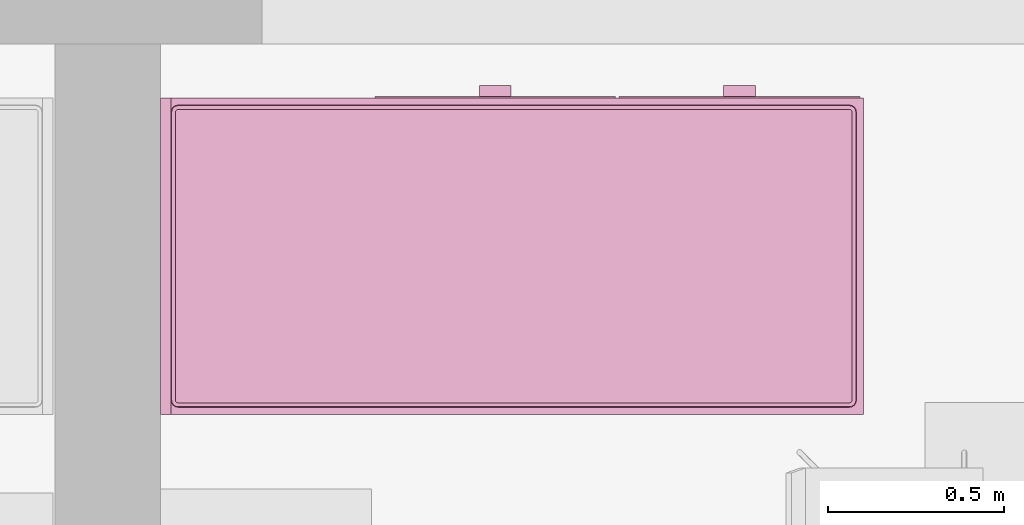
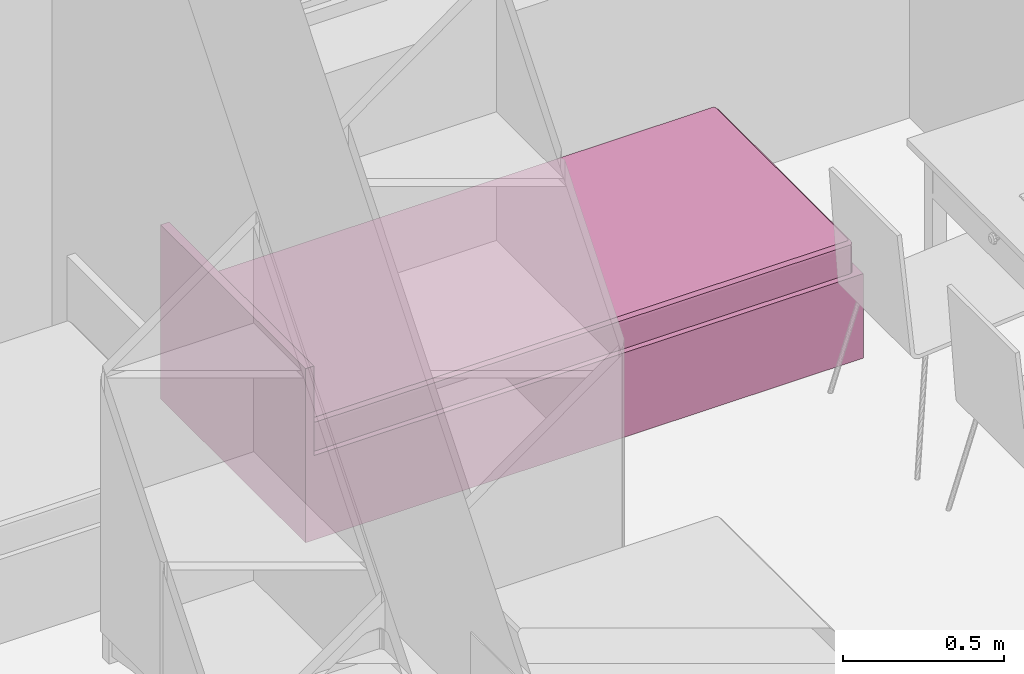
# One storey, part 112 of 172: 1 furnishing.
"""IFC2X3 building model written with IfcOpenShell, lengths in millimetres."""

import ifcopenshell
import ifcopenshell.guid

model = None  # the IFC model being written
_history = None  # IfcOwnerHistory: only IFC2X3 demands one
_inside = {}  # id of a spatial element -> (the spatial element, [elements in it])
_under = {}  # id of a project, library or spatial element -> (it, [spatial elements below it])
_declared = {}  # id of a project -> (the project, [libraries it declares])
_typed = {}  # id of a type object -> (the type object, [elements of that type])
_made_of = {}  # id of a material, layer set ... -> (it, [elements and type objects made of it])


def new_model(schema):
    """Start an empty IFC model of exactly this schema.

    Asked for "IFC4X3", IfcOpenShell would pick the latest addendum, in which some entities
    have other attributes; the version numbers below select the first issue.
    IFC2X3 requires an IfcOwnerHistory on every rooted entity: one is made here for all.
    """
    global model, _history
    if schema == "IFC4X3":
        model = ifcopenshell.file(schema_version=(4, 3, 0, 0))
    else:
        model = ifcopenshell.file(schema=schema)
    _inside.clear()
    _under.clear()
    _declared.clear()
    _typed.clear()
    _made_of.clear()
    _history = None
    if model.schema == "IFC2X3":
        org = make("IfcOrganization", Name="unknown")
        user = make(
            "IfcPersonAndOrganization",
            ThePerson=make("IfcPerson", FamilyName="unknown"),
            TheOrganization=org,
        )
        app = make(
            "IfcApplication",
            ApplicationDeveloper=org,
            Version="unknown",
            ApplicationFullName="unknown",
            ApplicationIdentifier="unknown",
        )
        _history = make(
            "IfcOwnerHistory",
            OwningUser=user,
            OwningApplication=app,
            ChangeAction="ADDED",
            CreationDate=0,
        )
    return model


def make(cls, **values):
    """One entity of the class cls with the attributes given. An attribute that is None is left unset."""
    return model.create_entity(
        cls, **{name: value for name, value in values.items() if value is not None}
    )


def entity(cls, *values):
    """Any entity or typed value of the class cls, its attributes in the order of the schema. None: left unset."""
    e = model.create_entity(cls)
    for i, value in enumerate(values):
        if value is not None:
            e[i] = value
    return e


def rooted(cls, **values):
    """An entity with a GlobalId (a new one), such as an element, a storey or a relation."""
    return make(cls, GlobalId=ifcopenshell.guid.new(), OwnerHistory=_history, **values)


def si_unit(unit_type, name, prefix=None):
    """IfcSIUnit, for example si_unit("LENGTHUNIT", "METRE", prefix="MILLI")."""
    return make("IfcSIUnit", UnitType=unit_type, Prefix=prefix, Name=name)


def converted_unit(unit_type, name, factor, base, dimensions=None, offset=None):
    """IfcConversionBasedUnit, such as the inch: factor (a typed value) times the base unit."""
    return make(
        "IfcConversionBasedUnit"
        if offset is None
        else "IfcConversionBasedUnitWithOffset",
        ConversionOffset=offset,
        Dimensions=None
        if dimensions is None
        else entity("IfcDimensionalExponents", *dimensions),
        UnitType=unit_type,
        Name=name,
        ConversionFactor=make(
            "IfcMeasureWithUnit", ValueComponent=factor, UnitComponent=base
        ),
    )


def money_unit(currency):
    """IfcMonetaryUnit."""
    return make("IfcMonetaryUnit", Currency=currency)


def assignment(units):
    """IfcUnitAssignment: the units of a project."""
    return None if units is None else make("IfcUnitAssignment", Units=units)


def point(xyz):
    """IfcCartesianPoint."""
    return None if xyz is None else make("IfcCartesianPoint", Coordinates=xyz)


def direction(xyz):
    """IfcDirection."""
    return None if xyz is None else make("IfcDirection", DirectionRatios=xyz)


def frame(location, z_axis=None, x_axis=None):
    """IfcAxis2Placement3D, a coordinate frame: its origin and axes. An axis left out is left unset."""
    return make(
        "IfcAxis2Placement3D",
        Location=point(location),
        Axis=direction(z_axis),
        RefDirection=direction(x_axis),
    )


def origin_with_axes():
    """The frame at (0, 0, 0) with the z axis (0, 0, 1) and the x axis (1, 0, 0) written out."""
    return frame((0.0, 0.0, 0.0), z_axis=(0.0, 0.0, 1.0), x_axis=(1.0, 0.0, 0.0))


def place(relative_to, where):
    """IfcLocalPlacement: puts the frame where relative to a parent placement (None: the world)."""
    return make(
        "IfcLocalPlacement", PlacementRelTo=relative_to, RelativePlacement=where
    )


def context(
    kind, dimensions, precision=None, world=None, true_north=None, identifier=None
):
    """IfcGeometricRepresentationContext, for example the 3D "Model" context."""
    return make(
        "IfcGeometricRepresentationContext",
        ContextIdentifier=identifier,
        ContextType=kind,
        CoordinateSpaceDimension=dimensions,
        Precision=precision,
        WorldCoordinateSystem=world,
        TrueNorth=true_north,
    )


def subcontext(parent, identifier, kind, view, scale=None):
    """IfcGeometricRepresentationSubContext, for example "Body" below "Model"."""
    return make(
        "IfcGeometricRepresentationSubContext",
        ContextIdentifier=identifier,
        ContextType=kind,
        ParentContext=parent,
        TargetScale=scale,
        TargetView=view,
    )


def project(units=None, contexts=None):
    """IfcProject with its units and contexts."""
    return rooted(
        "IfcProject",
        Name="project",
        RepresentationContexts=contexts,
        UnitsInContext=assignment(units),
    )


def spatial(cls, under=None, at=None, **own):
    """A site, building, storey or space (cls), placed at a placement, below another one or the project."""
    s = rooted(cls, ObjectPlacement=at, **own)
    if under is not None:
        _under.setdefault(under.id(), (under, []))[1].append(s)
    return s


def faces_of(points, faces, orient=None, outer=None):
    """IfcFace entities. A face is a list of loops; a loop is a list of indices into points, from 0.

    orient and outer hold one flag for each loop. By default every Orientation is true, the
    first loop of a face is its IfcFaceOuterBound and the others are IfcFaceBound.
    """
    made = []
    for i, loops in enumerate(faces):
        bounds = []
        for j, loop in enumerate(loops):
            is_outer = j == 0 if outer is None else outer[i][j]
            bounds.append(
                make(
                    "IfcFaceOuterBound" if is_outer else "IfcFaceBound",
                    Bound=make("IfcPolyLoop", Polygon=[points[k] for k in loop]),
                    Orientation=True if orient is None else orient[i][j],
                )
            )
        made.append(make("IfcFace", Bounds=bounds))
    return made


def faceted_brep(points, faces, orient=None, outer=None, voids=None):
    """IfcFacetedBrep: a solid bounded by flat faces; with voids (closed shells), ...WithVoids."""
    shared = [point(p) for p in points]
    hull = make("IfcClosedShell", CfsFaces=faces_of(shared, faces, orient, outer))
    if voids is None:
        return make("IfcFacetedBrep", Outer=hull)
    return make(
        "IfcFacetedBrepWithVoids",
        Outer=hull,
        Voids=[
            make(cls, CfsFaces=faces_of(shared, fs, o, b)) for cls, fs, o, b in voids
        ],
    )


def shape(context_of_items, identifier, shape_type, items):
    """IfcShapeRepresentation: the items that make up one representation, for example the "Body"."""
    return make(
        "IfcShapeRepresentation",
        ContextOfItems=context_of_items,
        RepresentationIdentifier=identifier,
        RepresentationType=shape_type,
        Items=items,
    )


def source(mapping_origin, context_of_items, identifier, shape_type, items):
    """IfcRepresentationMap: a shape defined once, which mapped items show again and again."""
    return make(
        "IfcRepresentationMap",
        MappingOrigin=mapping_origin,
        MappedRepresentation=shape(context_of_items, identifier, shape_type, items),
    )


def transform(
    local_origin,
    x_axis=None,
    y_axis=None,
    z_axis=None,
    scale=None,
    scale2=None,
    scale3=None,
    uniform=True,
):
    """IfcCartesianTransformationOperator3D, or its non-uniform kind. x_axis, y_axis, z_axis: its Axis1, 2, 3."""
    if uniform:
        return make(
            "IfcCartesianTransformationOperator3D",
            Axis1=direction(x_axis),
            Axis2=direction(y_axis),
            LocalOrigin=point(local_origin),
            Scale=scale,
            Axis3=direction(z_axis),
        )
    return make(
        "IfcCartesianTransformationOperator3DnonUniform",
        Axis1=direction(x_axis),
        Axis2=direction(y_axis),
        LocalOrigin=point(local_origin),
        Scale=scale,
        Axis3=direction(z_axis),
        Scale2=scale2,
        Scale3=scale3,
    )


def mapped(mapping_source, mapping_target):
    """IfcMappedItem: shows the shape of a source again, moved by a transform."""
    return make(
        "IfcMappedItem", MappingSource=mapping_source, MappingTarget=mapping_target
    )


def material(Name=None, Category=None):
    """IfcMaterial."""
    return make("IfcMaterial", Name=Name, Category=Category)


def material_list(materials):
    """IfcMaterialList."""
    return make("IfcMaterialList", Materials=materials)


def made_of(thing, what):
    """Note that an element or type object is made of a material, layer set ...; save() writes the relation."""
    if what is not None:
        _made_of.setdefault(what.id(), (what, []))[1].append(thing)
    return thing


def type_object(cls, material=None, **own):
    """A type object (cls), such as IfcWallType, which elements share."""
    return made_of(rooted(cls, **own), material)


def element(
    cls,
    number,
    at=None,
    inside=None,
    cuts=None,
    type_object=None,
    material=None,
    context=None,
    identifier="Body",
    shape_type=None,
    held_by="IfcProductDefinitionShape",
    body=None,
    shapes=None,
    **own,
):
    """One element of the class cls, such as IfcWall. Its Tag is "e" and its number.

    at: its placement. inside: the storey or other place that contains it. cuts: it is an
    opening in that element (IfcRelVoidsElement). A single representation is given by context,
    identifier, shape_type and body (its items); several are given by shapes. held_by: the class
    of the entity that holds the representations. save() writes the other relations.
    """
    e = rooted(cls, Tag="e%d" % number, ObjectPlacement=at, **own)
    if body is not None:
        shapes = [shape(context, identifier, shape_type, body)]
    if shapes is not None:
        e.Representation = make(held_by, Representations=shapes)
    if inside is not None:
        _inside.setdefault(inside.id(), (inside, []))[1].append(e)
    if cuts is not None:
        rooted(
            "IfcRelVoidsElement", RelatingBuildingElement=cuts, RelatedOpeningElement=e
        )
    if type_object is not None:
        _typed.setdefault(type_object.id(), (type_object, []))[1].append(e)
    return made_of(e, material)


def aggregate(whole, parts):
    """IfcRelAggregates: a whole, such as a stair, and the parts it consists of."""
    return rooted("IfcRelAggregates", RelatingObject=whole, RelatedObjects=parts)


def save(model, path):
    """Write the relations noted so far, then the file.

    IfcRelAggregates (storeys below a building ...), IfcRelContainedInSpatialStructure (elements
    in a storey), IfcRelDefinesByType, IfcRelAssociatesMaterial and IfcRelDeclares: one each for
    every whole, place, type object, material and project.
    """
    for whole, parts in _under.values():
        aggregate(whole, parts)
    for where, things in _inside.values():
        rooted(
            "IfcRelContainedInSpatialStructure",
            RelatedElements=things,
            RelatingStructure=where,
        )
    for kind, things in _typed.values():
        rooted("IfcRelDefinesByType", RelatedObjects=things, RelatingType=kind)
    for what, things in _made_of.values():
        rooted("IfcRelAssociatesMaterial", RelatedObjects=things, RelatingMaterial=what)
    for by, libraries in _declared.values():
        rooted("IfcRelDeclares", RelatingContext=by, RelatedDefinitions=libraries)
    model.write(path)


model = new_model("IFC2X3")

# Units and contexts
model_context = context("Model", 3, precision=1e-05, world=origin_with_axes(), true_north=direction((0.0, 1.0)))
body_context = subcontext(model_context, "Body", "Model", "MODEL_VIEW")
ifc_project = project(units=[si_unit("LENGTHUNIT", "METRE", prefix="MILLI"), si_unit("AREAUNIT", "SQUARE_METRE"), si_unit("VOLUMEUNIT", "CUBIC_METRE"), converted_unit("PLANEANGLEUNIT", "DEGREE", entity("IfcPlaneAngleMeasure", 0.0174532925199), si_unit("PLANEANGLEUNIT", "RADIAN"), dimensions=[0, 0, 0, 0, 0, 0, 0]), si_unit("SOLIDANGLEUNIT", "STERADIAN"), money_unit("USD"), converted_unit("TIMEUNIT", "Year", entity("IfcTimeMeasure", 31556926.0), si_unit("TIMEUNIT", "SECOND"), dimensions=[0, 0, 0, 0, 0, 0, 0]), si_unit("MASSUNIT", "GRAM"), si_unit("THERMODYNAMICTEMPERATUREUNIT", "DEGREE_CELSIUS"), si_unit("LUMINOUSINTENSITYUNIT", "LUMEN")], contexts=[model_context])

# Site, building, storey
site_placement = place(None, origin_with_axes())
site = spatial("IfcSite", under=ifc_project, at=site_placement, Name="Site", CompositionType="ELEMENT")
building_placement = place(site_placement, origin_with_axes())
building = spatial("IfcBuilding", under=site, at=building_placement, Name="Building", CompositionType="ELEMENT")
storey_placement = place(building_placement, frame((0.0, 0.0, 3200.0), z_axis=(0.0, 0.0, 1.0), x_axis=(1.0, 0.0, 0.0)))
storey = spatial("IfcBuildingStorey", under=building, at=storey_placement, Name="3KORRUS", CompositionType="ELEMENT", Elevation=3200.0)

# Furnishing
ifc_material = material(Name="Background")
ifc_material_list = material_list([ifc_material])
furnishing_element_type = type_object("IfcFurnishingElementType", Name="Bed 19")
shared_shape = source(origin_with_axes(), body_context, "Body", "Brep", [
    faceted_brep([(900.0, 1970.0, 0.0), (0.0, 1970.0, 0.0), (0.0, 2000.0, 0.0), (900.0, 2000.0, 0.0), (900.0, 1970.0, 660.0), (0.0, 1970.0, 660.0), (0.0, 2000.0, 660.0), (900.0, 2000.0, 660.0)], [[[0, 1, 2, 3]], [[1, 0, 4, 5]], [[2, 1, 5, 6]], [[3, 2, 6, 7]], [[0, 3, 7, 4]], [[5, 4, 7, 6]]]),
    faceted_brep([(900.0, 0.0, 0.0), (0.0, 0.0, 0.0), (0.0, 1970.0, 0.0), (900.0, 1970.0, 0.0), (900.0, 0.0, 320.0), (0.0, 0.0, 320.0), (0.0, 1970.0, 320.0), (900.0, 1970.0, 320.0)], [[[0, 1, 2, 3]], [[1, 0, 4, 5]], [[2, 1, 5, 6]], [[3, 2, 6, 7]], [[0, 3, 7, 4]], [[5, 4, 7, 6]]]),
    faceted_brep([(905.0, 10.0, 30.0), (900.0, 10.0, 30.0), (900.0, 695.0, 30.0), (905.0, 695.0, 30.0), (905.0, 10.0, 290.0), (900.0, 10.0, 290.0), (900.0, 695.0, 290.0), (905.0, 695.0, 290.0)], [[[0, 1, 2, 3]], [[1, 0, 4, 5]], [[2, 1, 5, 6]], [[3, 2, 6, 7]], [[0, 3, 7, 4]], [[5, 4, 7, 6]]]),
    faceted_brep([(935.0, 307.5, 150.0), (905.0, 307.5, 150.0), (905.0, 397.5, 150.0), (935.0, 397.5, 150.0), (935.0, 307.5, 170.0), (905.0, 307.5, 170.0), (905.0, 397.5, 170.0), (935.0, 397.5, 170.0)], [[[0, 1, 2, 3]], [[1, 0, 4, 5]], [[2, 1, 5, 6]], [[3, 2, 6, 7]], [[0, 3, 7, 4]], [[5, 4, 7, 6]]]),
    faceted_brep([(905.0, 705.0, 30.0), (900.0, 705.0, 30.0), (900.0, 1390.0, 30.0), (905.0, 1390.0, 30.0), (905.0, 705.0, 290.0), (900.0, 705.0, 290.0), (900.0, 1390.0, 290.0), (905.0, 1390.0, 290.0)], [[[0, 1, 2, 3]], [[1, 0, 4, 5]], [[2, 1, 5, 6]], [[3, 2, 6, 7]], [[0, 3, 7, 4]], [[5, 4, 7, 6]]]),
    faceted_brep([(935.0, 1002.5, 150.0), (905.0, 1002.5, 150.0), (905.0, 1092.5, 150.0), (935.0, 1092.5, 150.0), (935.0, 1002.5, 170.0), (905.0, 1002.5, 170.0), (905.0, 1092.5, 170.0), (935.0, 1092.5, 170.0)], [[[0, 1, 2, 3]], [[1, 0, 4, 5]], [[2, 1, 5, 6]], [[3, 2, 6, 7]], [[0, 3, 7, 4]], [[5, 4, 7, 6]]]),
    faceted_brep([(20.0, 40.0, 350.0), (20.0, 1950.0, 350.0), (21.522, 1957.654, 350.0), (25.858, 1964.142, 350.0), (32.346, 1968.478, 350.0), (40.0, 1970.0, 350.0), (860.0, 1970.0, 350.0), (867.654, 1968.478, 350.0), (874.142, 1964.142, 350.0), (878.478, 1957.654, 350.0), (880.0, 1950.0, 350.0), (880.0, 40.0, 350.0), (878.478, 32.346, 350.0), (874.142, 25.858, 350.0), (867.654, 21.522, 350.0), (860.0, 20.0, 350.0), (40.0, 20.0, 350.0), (32.346, 21.522, 350.0), (25.858, 25.858, 350.0), (21.522, 32.346, 350.0), (20.0, 40.0, 420.0), (20.0, 1950.0, 420.0), (21.522, 1957.654, 420.0), (25.858, 1964.142, 420.0), (32.346, 1968.478, 420.0), (40.0, 1970.0, 420.0), (860.0, 1970.0, 420.0), (867.654, 1968.478, 420.0), (874.142, 1964.142, 420.0), (878.478, 1957.654, 420.0), (880.0, 1950.0, 420.0), (880.0, 40.0, 420.0), (878.478, 32.346, 420.0), (874.142, 25.858, 420.0), (867.654, 21.522, 420.0), (860.0, 20.0, 420.0), (40.0, 20.0, 420.0), (32.346, 21.522, 420.0), (25.858, 25.858, 420.0), (21.522, 32.346, 420.0), (21.522, 40.15, 427.654), (21.522, 1949.85, 427.654), (22.956, 1957.06, 427.654), (26.955, 1963.045, 427.654), (32.94, 1967.044, 427.654), (40.15, 1968.478, 427.654), (859.85, 1968.478, 427.654), (867.06, 1967.044, 427.654), (873.045, 1963.045, 427.654), (877.044, 1957.06, 427.654), (878.478, 1949.85, 427.654), (878.478, 40.15, 427.654), (877.044, 32.94, 427.654), (873.045, 26.955, 427.654), (867.06, 22.956, 427.654), (859.85, 21.522, 427.654), (40.15, 21.522, 427.654), (32.94, 22.956, 427.654), (26.955, 26.955, 427.654), (22.956, 32.94, 427.654), (32.346, 41.216, 438.478), (32.346, 1948.784, 438.478), (33.152, 1952.836, 438.478), (34.759, 1955.241, 438.478), (37.164, 1956.848, 438.478), (41.216, 1957.654, 438.478), (858.784, 1957.654, 438.478), (862.836, 1956.848, 438.478), (865.241, 1955.241, 438.478), (866.848, 1952.836, 438.478), (867.654, 1948.784, 438.478), (867.654, 41.216, 438.478), (866.848, 37.164, 438.478), (865.241, 34.759, 438.478), (862.836, 33.152, 438.478), (858.784, 32.346, 438.478), (41.216, 32.346, 438.478), (37.164, 33.152, 438.478), (34.759, 34.759, 438.478), (33.152, 37.164, 438.478), (40.0, 41.97, 440.0), (40.0, 1948.03, 440.0), (40.327, 1949.673, 440.0), (40.0, 1950.0, 439.924), (41.97, 1950.0, 440.0), (858.03, 1950.0, 440.0), (859.673, 1949.673, 440.0), (860.0, 1950.0, 439.924), (860.0, 1948.03, 440.0), (860.0, 41.97, 440.0), (859.673, 40.327, 440.0), (860.0, 40.0, 439.924), (858.03, 40.0, 440.0), (41.97, 40.0, 440.0), (40.327, 40.327, 440.0), (40.0, 40.0, 439.924)], [[[0, 1, 2, 3, 4, 5, 6, 7, 8, 9, 10, 11, 12, 13, 14, 15, 16, 17, 18, 19]], [[1, 0, 20, 21]], [[2, 1, 21, 22]], [[3, 2, 22, 23]], [[4, 3, 23, 24]], [[5, 4, 24, 25]], [[6, 5, 25, 26]], [[7, 6, 26, 27]], [[8, 7, 27, 28]], [[9, 8, 28, 29]], [[10, 9, 29, 30]], [[11, 10, 30, 31]], [[12, 11, 31, 32]], [[13, 12, 32, 33]], [[14, 13, 33, 34]], [[15, 14, 34, 35]], [[16, 15, 35, 36]], [[17, 16, 36, 37]], [[18, 17, 37, 38]], [[19, 18, 38, 39]], [[0, 19, 39, 20]], [[21, 20, 40, 41]], [[22, 21, 41, 42]], [[23, 22, 42, 43]], [[24, 23, 43, 44]], [[25, 24, 44, 45]], [[26, 25, 45, 46]], [[27, 26, 46, 47]], [[28, 27, 47, 48]], [[29, 28, 48, 49]], [[30, 29, 49, 50]], [[31, 30, 50, 51]], [[32, 31, 51, 52]], [[33, 32, 52, 53]], [[34, 33, 53, 54]], [[35, 34, 54, 55]], [[36, 35, 55, 56]], [[37, 36, 56, 57]], [[38, 37, 57, 58]], [[39, 38, 58, 59]], [[20, 39, 59, 40]], [[41, 40, 60, 61]], [[42, 41, 61, 62]], [[43, 42, 62, 63]], [[44, 43, 63, 64]], [[45, 44, 64, 65]], [[46, 45, 65, 66]], [[47, 46, 66, 67]], [[48, 47, 67, 68]], [[49, 48, 68, 69]], [[50, 49, 69, 70]], [[51, 50, 70, 71]], [[52, 51, 71, 72]], [[53, 52, 72, 73]], [[54, 53, 73, 74]], [[55, 54, 74, 75]], [[56, 55, 75, 76]], [[57, 56, 76, 77]], [[58, 57, 77, 78]], [[59, 58, 78, 79]], [[40, 59, 79, 60]], [[61, 60, 80, 81]], [[62, 61, 81, 82, 83]], [[63, 62, 83]], [[64, 63, 83]], [[65, 64, 83, 82, 84]], [[66, 65, 84, 85]], [[67, 66, 85, 86, 87]], [[68, 67, 87]], [[69, 68, 87]], [[70, 69, 87, 86, 88]], [[71, 70, 88, 89]], [[72, 71, 89, 90, 91]], [[73, 72, 91]], [[74, 73, 91]], [[75, 74, 91, 90, 92]], [[76, 75, 92, 93]], [[77, 76, 93, 94, 95]], [[78, 77, 95]], [[79, 78, 95]], [[60, 79, 95, 94, 80]], [[81, 80, 94, 93, 92, 90, 89, 88, 86, 85, 84, 82]]]),
    faceted_brep([(20.0, 40.0, 350.0), (21.522, 32.346, 350.0), (25.858, 25.858, 350.0), (32.346, 21.522, 350.0), (40.0, 20.0, 350.0), (860.0, 20.0, 350.0), (867.654, 21.522, 350.0), (874.142, 25.858, 350.0), (878.478, 32.346, 350.0), (880.0, 40.0, 350.0), (880.0, 1950.0, 350.0), (878.478, 1957.654, 350.0), (874.142, 1964.142, 350.0), (867.654, 1968.478, 350.0), (860.0, 1970.0, 350.0), (40.0, 1970.0, 350.0), (32.346, 1968.478, 350.0), (25.858, 1964.142, 350.0), (21.522, 1957.654, 350.0), (20.0, 1950.0, 350.0), (20.0, 40.0, 320.0), (21.522, 32.346, 320.0), (25.858, 25.858, 320.0), (32.346, 21.522, 320.0), (40.0, 20.0, 320.0), (860.0, 20.0, 320.0), (867.654, 21.522, 320.0), (874.142, 25.858, 320.0), (878.478, 32.346, 320.0), (880.0, 40.0, 320.0), (880.0, 1950.0, 320.0), (878.478, 1957.654, 320.0), (874.142, 1964.142, 320.0), (867.654, 1968.478, 320.0), (860.0, 1970.0, 320.0), (40.0, 1970.0, 320.0), (32.346, 1968.478, 320.0), (25.858, 1964.142, 320.0), (21.522, 1957.654, 320.0), (20.0, 1950.0, 320.0)], [[[0, 1, 2, 3, 4, 5, 6, 7, 8, 9, 10, 11, 12, 13, 14, 15, 16, 17, 18, 19]], [[0, 20, 21, 1]], [[1, 21, 22, 2]], [[2, 22, 23, 3]], [[3, 23, 24, 4]], [[4, 24, 25, 5]], [[5, 25, 26, 6]], [[6, 26, 27, 7]], [[7, 27, 28, 8]], [[8, 28, 29, 9]], [[9, 29, 30, 10]], [[10, 30, 31, 11]], [[11, 31, 32, 12]], [[12, 32, 33, 13]], [[13, 33, 34, 14]], [[14, 34, 35, 15]], [[15, 35, 36, 16]], [[16, 36, 37, 17]], [[17, 37, 38, 18]], [[18, 38, 39, 19]], [[19, 39, 20, 0]], [[20, 39, 38, 37, 36, 35, 34, 33, 32, 31, 30, 29, 28, 27, 26, 25, 24, 23, 22, 21]]]),
])
furnishing_placement = place(storey_placement, frame((-33990.2967033, -6193.677052, 0.0), z_axis=(0.0, 0.0, 1.0), x_axis=(0.0, 1.0, 0.0)))
element("IfcFurnishingElement", 1, at=furnishing_placement, inside=storey, type_object=furnishing_element_type, material=ifc_material_list, Name="FU - 013", context=body_context, shape_type="MappedRepresentation", body=[
    mapped(shared_shape, transform((0.0, 0.0, 0.0))),
])

save(model, "model.ifc")
